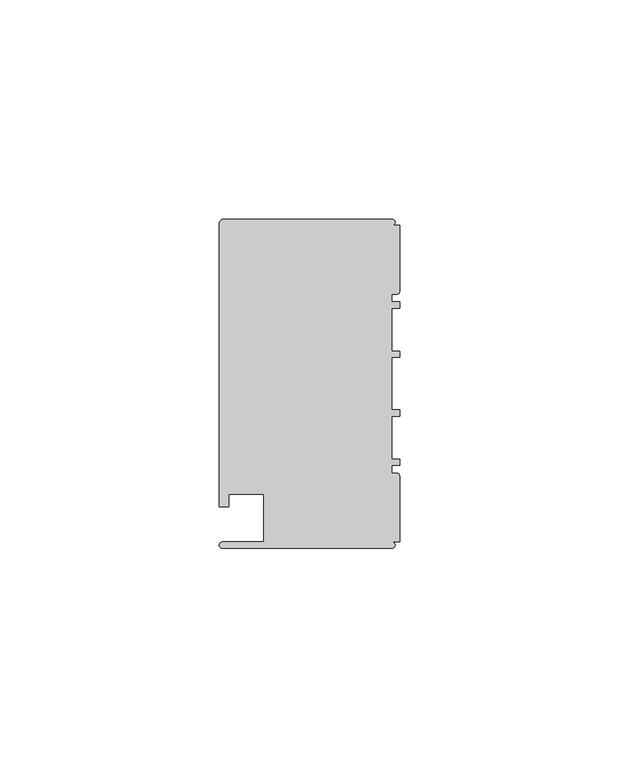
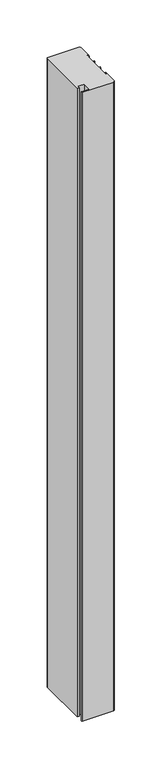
"""IFC4 building model written with IfcOpenShell, lengths in millimetres: member geometry, Прямоугольный импост : 1-AMG-1-Профиль 40Х75 Верх П."""

from ifc_helpers import new_model, si_unit, point, frame, frame_2d, origin, place, context, project, spatial, polyline, circle_curve, trimmed, segment, composite_curve, outline, extrude, source, transform, mapped, element, save


def member_5e3bff07(model_context):
    return source(origin(), model_context, "Body", "SweptSolid", [
        extrude(outline(composite_curve([segment(polyline([(-1.7, -37.5), (-40.4, -37.5)]), True, "CONTINUOUS"), segment(trimmed(circle_curve(frame_2d((-40.4, -36.8)), 0.7), [point((-40.4, -37.5))], [point((-40.4, -36.1))], False, "CARTESIAN"), True, "CONTINUOUS"), segment(polyline([(-40.4, -36.1), (-31.0, -36.1), (-31.0, -25.25), (-39.0, -25.25), (-39.0, -28.1), (-41.1, -28.1), (-41.1, 36.1)]), True, "CONTINUOUS"), segment(trimmed(circle_curve(frame_2d((-39.7541527, 36.3020763)), 1.3609334), [point((-41.1, 36.1))], [point((-40.4, 37.5))], False, "CARTESIAN"), True, "CONTINUOUS"), segment(polyline([(-40.4, 37.5), (-1.7, 37.5)]), True, "CONTINUOUS"), segment(trimmed(circle_curve(frame_2d((-1.7, 36.8)), 0.7), [point((-1.7, 37.5))], [point((-1.7, 36.1))], False, "CARTESIAN"), True, "CONTINUOUS"), segment(polyline([(-1.7, 36.1), (0.0, 36.1), (0.0, 20.95)]), True, "CONTINUOUS"), segment(trimmed(circle_curve(frame_2d((-0.5, 20.95)), 0.5), [point((0.0, 20.95))], [point((-0.5, 20.45))], False, "CARTESIAN"), True, "CONTINUOUS"), segment(polyline([(-0.5, 20.45), (-1.8, 20.45), (-1.8, 18.65), (0.0, 18.65), (0.0, 17.25), (-1.8, 17.25), (-1.8, 7.4), (0.0, 7.4), (0.0, 6.0), (-1.8, 6.0), (-1.8, -6.0), (0.0, -6.0), (0.0, -7.4), (-1.8, -7.4), (-1.8, -17.25), (0.0, -17.25), (0.0, -18.65), (-1.8, -18.65), (-1.8, -20.45), (-0.5, -20.45)]), True, "CONTINUOUS"), segment(trimmed(circle_curve(frame_2d((-0.5, -20.95)), 0.5), [point((-0.5, -20.45))], [point((0.0, -20.95))], False, "CARTESIAN"), True, "CONTINUOUS"), segment(polyline([(0.0, -20.95), (0.0, -36.1), (-1.7, -36.1)]), True, "CONTINUOUS"), segment(trimmed(circle_curve(frame_2d((-1.7, -36.8)), 0.7), [point((-1.7, -36.1))], [point((-1.7, -37.5))], False, "CARTESIAN"), True, "CONTINUOUS")], self_intersect=False)), frame((0.0, 0.0, -821.1046876), z_axis=(0.0, 0.0, 1.0), x_axis=(1.0, 0.0, 0.0)), (0.0, 0.0, 1.0), 821.1046876),
    ])


if __name__ == "__main__":
    model = new_model("IFC4")
    model_context = context("Model", 3, world=origin())
    ifc_project = project(units=[si_unit("LENGTHUNIT", "METRE", prefix="MILLI")], contexts=[model_context])
    site = spatial("IfcSite", under=ifc_project)
    building = spatial("IfcBuilding", under=site)
    placement = place(None, origin())
    member_shape = member_5e3bff07(model_context)
    element("IfcMember", 1, ObjectType="Прямоугольный импост : 1-AMG-1-Профиль 40Х75 Верх П", at=placement, inside=building, context=model_context, shape_type="MappedRepresentation", body=[
        mapped(member_shape, transform((0.0, 0.0, 0.0), x_axis=(1.0, 0.0, 0.0), y_axis=(0.0, 1.0, 0.0), z_axis=(0.0, 0.0, 1.0))),
    ])
    save(model, "model.ifc")
